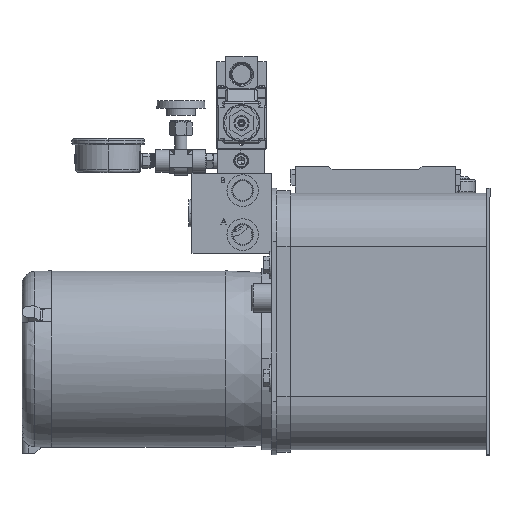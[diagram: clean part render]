
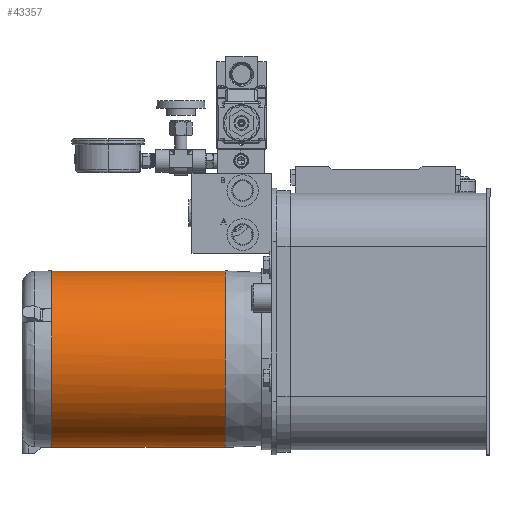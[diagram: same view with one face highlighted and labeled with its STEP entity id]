
A CAD part, top view. The second image highlights one B-rep face of the part: STEP entity #43357.
In plain terms, the highlighted cylindrical face has radius 83.947 mm (diameter 167.894 mm), a partial arc.
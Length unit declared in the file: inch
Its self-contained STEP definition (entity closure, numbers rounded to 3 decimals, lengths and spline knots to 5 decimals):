
#7749 = CARTESIAN_POINT ( 'NONE',  ( -1.87298, 6.9261, 13.47889 ) ) ;
#10292 = AXIS2_PLACEMENT_3D ( 'NONE', #46016, #15139, #76232 ) ;
#10386 = CARTESIAN_POINT ( 'NONE',  ( -8.63298, 6.9261, 13.47889 ) ) ;
#12831 = EDGE_CURVE ( 'NONE', #60899, #61817, #67965, .T. ) ;
#13958 = DIRECTION ( 'NONE',  ( 1., 0., 0. ) ) ;
#15139 = DIRECTION ( 'NONE',  ( 1., 0., 0. ) ) ;
#15981 = VERTEX_POINT ( 'NONE', #95463 ) ;
#21741 = DIRECTION ( 'NONE',  ( 1., 0., 0. ) ) ;
#21949 = CARTESIAN_POINT ( 'NONE',  ( -2.13298, 3.6211, 13.47889 ) ) ;
#22350 = CARTESIAN_POINT ( 'NONE',  ( -2.13298, 10.2311, 13.47889 ) ) ;
#22814 = AXIS2_PLACEMENT_3D ( 'NONE', #10386, #63356, #63870 ) ;
#32703 = CARTESIAN_POINT ( 'NONE',  ( -8.63298, 10.2311, 13.47889 ) ) ;
#36723 = ORIENTED_EDGE ( 'NONE', *, *, #77408, .T. ) ;
#43357 = ADVANCED_FACE ( 'NONE', ( #62271 ), #53033, .T. ) ;
#45333 = DIRECTION ( 'NONE',  ( 0., 1., 0. ) ) ;
#46016 = CARTESIAN_POINT ( 'NONE',  ( -2.13298, 6.9261, 13.47889 ) ) ;
#48050 = CIRCLE ( 'NONE', #10292, 3.305 ) ;
#48120 = EDGE_LOOP ( 'NONE', ( #98757, #36723, #95648, #93586 ) ) ;
#48380 = LINE ( 'NONE', #86783, #97808 ) ;
#49102 = CIRCLE ( 'NONE', #22814, 3.305 ) ;
#50301 = VECTOR ( 'NONE', #21741, 39.37008 ) ;
#53033 = CYLINDRICAL_SURFACE ( 'NONE', #97568, 3.305 ) ;
#60899 = VERTEX_POINT ( 'NONE', #32703 ) ;
#61817 = VERTEX_POINT ( 'NONE', #22350 ) ;
#62271 = FACE_OUTER_BOUND ( 'NONE', #48120, .T. ) ;
#63356 = DIRECTION ( 'NONE',  ( 1., 0., 0. ) ) ;
#63870 = DIRECTION ( 'NONE',  ( 0., 1., 0. ) ) ;
#67965 = LINE ( 'NONE', #85323, #50301 ) ;
#69470 = EDGE_CURVE ( 'NONE', #60899, #15981, #49102, .T. ) ;
#72624 = EDGE_CURVE ( 'NONE', #61817, #76861, #48050, .T. ) ;
#76232 = DIRECTION ( 'NONE',  ( 0., 1., 0. ) ) ;
#76861 = VERTEX_POINT ( 'NONE', #21949 ) ;
#77408 = EDGE_CURVE ( 'NONE', #15981, #76861, #48380, .T. ) ;
#78139 = DIRECTION ( 'NONE',  ( 1., 0., 0. ) ) ;
#85323 = CARTESIAN_POINT ( 'NONE',  ( -1.87298, 10.2311, 13.47889 ) ) ;
#86783 = CARTESIAN_POINT ( 'NONE',  ( -1.87298, 3.6211, 13.47889 ) ) ;
#93586 = ORIENTED_EDGE ( 'NONE', *, *, #12831, .F. ) ;
#95463 = CARTESIAN_POINT ( 'NONE',  ( -8.63298, 3.6211, 13.47889 ) ) ;
#95648 = ORIENTED_EDGE ( 'NONE', *, *, #72624, .F. ) ;
#97568 = AXIS2_PLACEMENT_3D ( 'NONE', #7749, #13958, #45333 ) ;
#97808 = VECTOR ( 'NONE', #78139, 39.37008 ) ;
#98757 = ORIENTED_EDGE ( 'NONE', *, *, #69470, .T. ) ;
